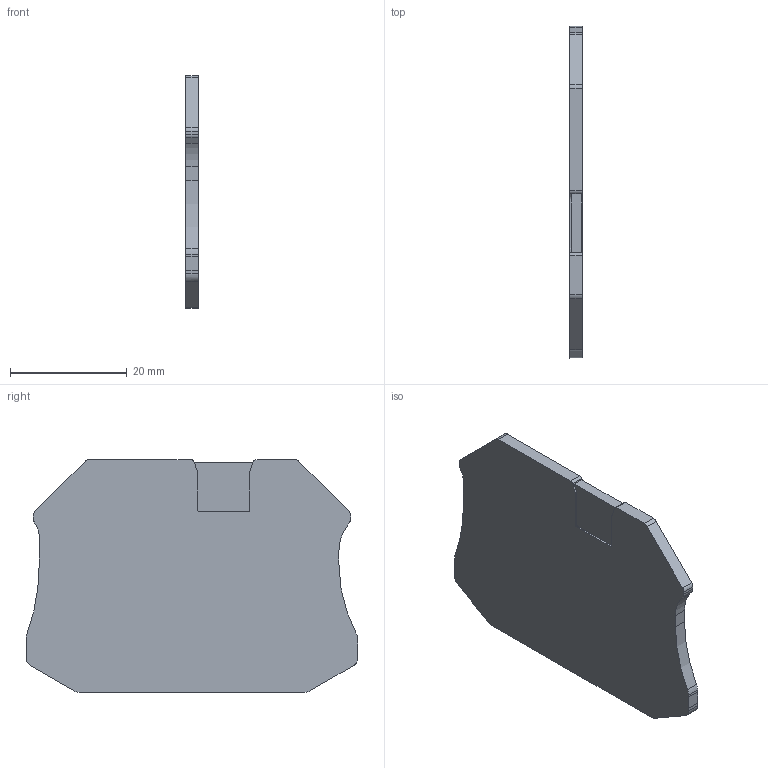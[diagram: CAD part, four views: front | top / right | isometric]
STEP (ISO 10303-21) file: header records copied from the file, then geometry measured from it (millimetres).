
FILE_DESCRIPTION(('STEP AP214'),'1');
FILE_NAME(' ',' ',('TraceParts'),('TraceParts S.A.'),'XStep 1.0',' ',' ');
FILE_SCHEMA(('automotive_design'));
Length unit declared in the file: millimetre
Products named in the file (1): NSYTRAC23N
Bounding box: 2.2 x 56.8 x 39.8 mm (x, y, z)
Volume: 4412.7 mm3; surface area: 4428.2 mm2
Topology: 1 solids, 1 shells, 58 faces, 168 edges, 112 vertices
Faces by surface type: cylinder 30, plane 28
Entity records: 1953 total; most frequent: CARTESIAN_POINT 351, DIRECTION 342, ORIENTED_EDGE 336, EDGE_CURVE 168, AXIS2_PLACEMENT_3D 117, VERTEX_POINT 112, LINE 108, VECTOR 108
